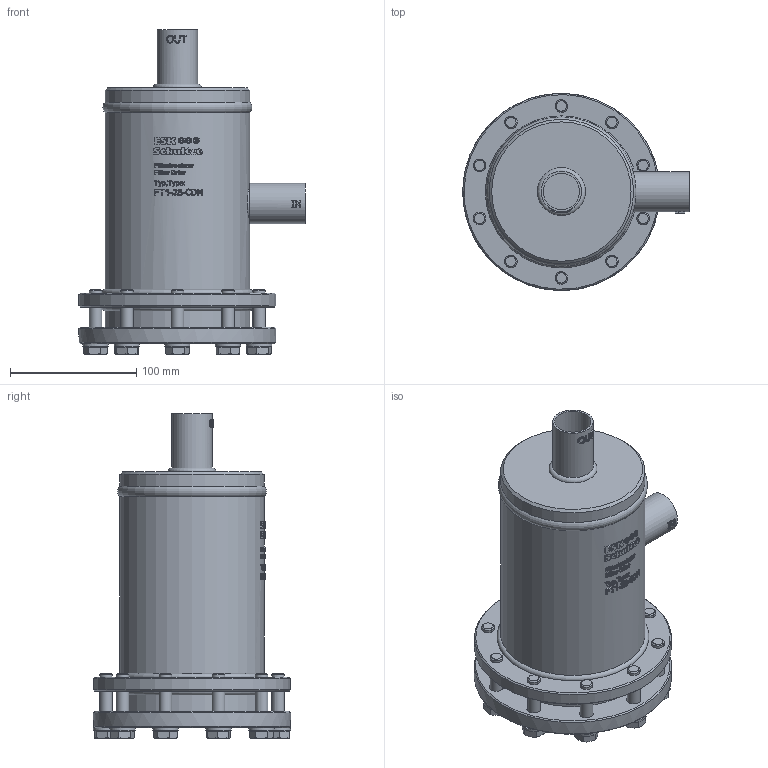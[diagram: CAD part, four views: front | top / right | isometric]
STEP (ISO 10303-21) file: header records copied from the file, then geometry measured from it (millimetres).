
FILE_DESCRIPTION(/* description */ (''),/* implementation_level */ '2;1');
FILE_NAME(/* name */ 'P:\FT\FT1-28-CDM\FT1-28-CDM.stp',/* time_stamp */ '2017-10-05T08:20:47+02:00',/* author */ ('neufeld'),/* organization */ (''),/* preprocessor_version */ 'ST-DEVELOPER v16.1',/* originating_system */ 'Autodesk Inventor 2016',/* authorisation */ '');
FILE_SCHEMA (('AUTOMOTIVE_DESIGN { 1 0 10303 214 3 1 1 }'));
Length unit declared in the file: millimetre
Products named in the file (2): FT1-28-CDM; FT1-28-CDM_1
Assembly tree (1 placements, depth 2):
  FT1-28-CDM_1
    FT1-28-CDM
Bounding box: 179.15 x 156 x 256.9 mm (x, y, z)
Volume: 2377147.3 mm3; surface area: 166965.4 mm2
Topology: 1 solids, 1 shells, 1237 faces, 3239 edges, 2143 vertices
Faces by surface type: plane 720, bspline 284, cylinder 154, cone 75, torus 4
Full cylindrical faces by diameter (mm): 10 x20, 10.5 x10, 11 x10, 15.6 x10, 20 x10, 28.7 x2, 32 x2, 114.3 x3, 115 x1, 115.2 x1, 156 x2
Entity records: 43147 total; most frequent: CARTESIAN_POINT 14626, ORIENTED_EDGE 6216, DIRECTION 5279, EDGE_CURVE 3106, VERTEX_POINT 2101, AXIS2_PLACEMENT_3D 1934, EDGE_LOOP 1487, LINE 1411
